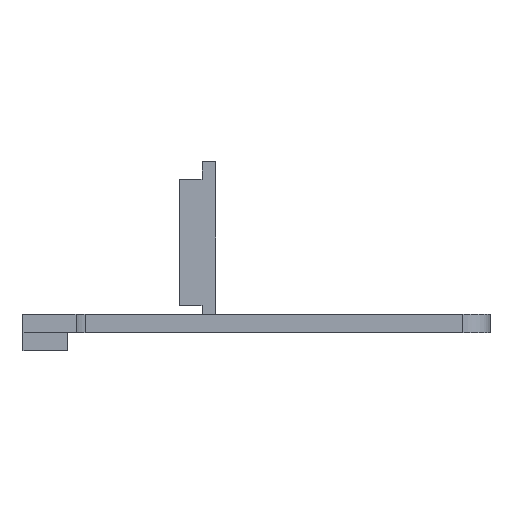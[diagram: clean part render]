
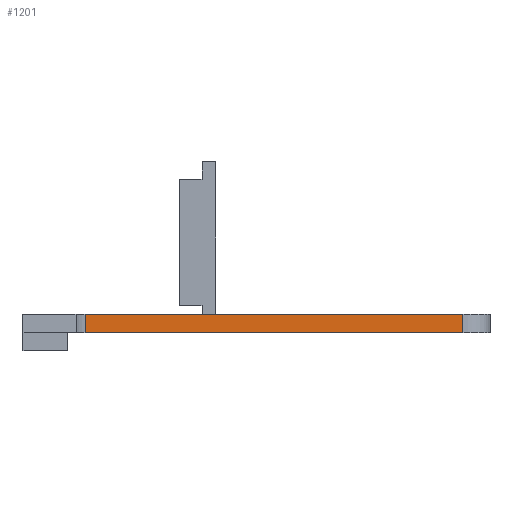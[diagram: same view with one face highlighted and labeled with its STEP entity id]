
A CAD part, left-side view. The second image highlights one B-rep face of the part: STEP entity #1201.
In plain terms, the highlighted planar face has unit normal (-1, 0, 0).
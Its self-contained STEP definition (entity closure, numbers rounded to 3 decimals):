
#44 = PLANE('',#45);
#45 = AXIS2_PLACEMENT_3D('',#46,#47,#48);
#46 = CARTESIAN_POINT('',(28.,-24.,-21.));
#47 = DIRECTION('',(-0.,-0.,1.));
#48 = DIRECTION('',(1.,0.,0.));
#100 = PLANE('',#101);
#101 = AXIS2_PLACEMENT_3D('',#102,#103,#104);
#102 = CARTESIAN_POINT('',(28.,-24.,-23.));
#103 = DIRECTION('',(-0.,-0.,1.));
#104 = DIRECTION('',(1.,0.,0.));
#199 = VERTEX_POINT('',#200);
#200 = CARTESIAN_POINT('',(-28.,-21.,-21.));
#215 = CYLINDRICAL_SURFACE('',#216,3.);
#216 = AXIS2_PLACEMENT_3D('',#217,#218,#219);
#217 = CARTESIAN_POINT('',(-25.,-21.,-23.));
#218 = DIRECTION('',(-0.,-0.,1.));
#219 = DIRECTION('',(-1.,-0.,-0.));
#227 = EDGE_CURVE('',#199,#228,#230,.T.);
#228 = VERTEX_POINT('',#229);
#229 = CARTESIAN_POINT('',(-28.,21.,-21.));
#230 = SURFACE_CURVE('',#231,(#235,#242),.PCURVE_S1.);
#231 = LINE('',#232,#233);
#232 = CARTESIAN_POINT('',(-28.,-24.,-21.));
#233 = VECTOR('',#234,1.);
#234 = DIRECTION('',(-0.,1.,0.));
#235 = PCURVE('',#44,#236);
#236 = DEFINITIONAL_REPRESENTATION('',(#237),#241);
#237 = LINE('',#238,#239);
#238 = CARTESIAN_POINT('',(-56.,0.));
#239 = VECTOR('',#240,1.);
#240 = DIRECTION('',(0.,1.));
#241 = ( GEOMETRIC_REPRESENTATION_CONTEXT(2) 
PARAMETRIC_REPRESENTATION_CONTEXT() REPRESENTATION_CONTEXT('2D SPACE',''
  ) );
#242 = PCURVE('',#243,#248);
#243 = PLANE('',#244);
#244 = AXIS2_PLACEMENT_3D('',#245,#246,#247);
#245 = CARTESIAN_POINT('',(-28.,-24.,-23.));
#246 = DIRECTION('',(-1.,-0.,0.));
#247 = DIRECTION('',(0.,0.,-1.));
#248 = DEFINITIONAL_REPRESENTATION('',(#249),#253);
#249 = LINE('',#250,#251);
#250 = CARTESIAN_POINT('',(-2.,-0.));
#251 = VECTOR('',#252,1.);
#252 = DIRECTION('',(-0.,-1.));
#253 = ( GEOMETRIC_REPRESENTATION_CONTEXT(2) 
PARAMETRIC_REPRESENTATION_CONTEXT() REPRESENTATION_CONTEXT('2D SPACE',''
  ) );
#276 = CYLINDRICAL_SURFACE('',#277,3.);
#277 = AXIS2_PLACEMENT_3D('',#278,#279,#280);
#278 = CARTESIAN_POINT('',(-25.,21.,-23.));
#279 = DIRECTION('',(-0.,-0.,1.));
#280 = DIRECTION('',(-1.,-0.,-0.));
#781 = VERTEX_POINT('',#782);
#782 = CARTESIAN_POINT('',(-28.,-21.,-23.));
#804 = EDGE_CURVE('',#781,#805,#807,.T.);
#805 = VERTEX_POINT('',#806);
#806 = CARTESIAN_POINT('',(-28.,21.,-23.));
#807 = SURFACE_CURVE('',#808,(#812,#819),.PCURVE_S1.);
#808 = LINE('',#809,#810);
#809 = CARTESIAN_POINT('',(-28.,-24.,-23.));
#810 = VECTOR('',#811,1.);
#811 = DIRECTION('',(-0.,1.,0.));
#812 = PCURVE('',#100,#813);
#813 = DEFINITIONAL_REPRESENTATION('',(#814),#818);
#814 = LINE('',#815,#816);
#815 = CARTESIAN_POINT('',(-56.,0.));
#816 = VECTOR('',#817,1.);
#817 = DIRECTION('',(0.,1.));
#818 = ( GEOMETRIC_REPRESENTATION_CONTEXT(2) 
PARAMETRIC_REPRESENTATION_CONTEXT() REPRESENTATION_CONTEXT('2D SPACE',''
  ) );
#819 = PCURVE('',#243,#820);
#820 = DEFINITIONAL_REPRESENTATION('',(#821),#825);
#821 = LINE('',#822,#823);
#822 = CARTESIAN_POINT('',(-0.,-0.));
#823 = VECTOR('',#824,1.);
#824 = DIRECTION('',(-0.,-1.));
#825 = ( GEOMETRIC_REPRESENTATION_CONTEXT(2) 
PARAMETRIC_REPRESENTATION_CONTEXT() REPRESENTATION_CONTEXT('2D SPACE',''
  ) );
#1154 = EDGE_CURVE('',#781,#199,#1155,.T.);
#1155 = SURFACE_CURVE('',#1156,(#1160,#1167),.PCURVE_S1.);
#1156 = LINE('',#1157,#1158);
#1157 = CARTESIAN_POINT('',(-28.,-21.,-23.));
#1158 = VECTOR('',#1159,1.);
#1159 = DIRECTION('',(-0.,-0.,1.));
#1160 = PCURVE('',#215,#1161);
#1161 = DEFINITIONAL_REPRESENTATION('',(#1162),#1166);
#1162 = LINE('',#1163,#1164);
#1163 = CARTESIAN_POINT('',(0.,0.));
#1164 = VECTOR('',#1165,1.);
#1165 = DIRECTION('',(0.,1.));
#1166 = ( GEOMETRIC_REPRESENTATION_CONTEXT(2) 
PARAMETRIC_REPRESENTATION_CONTEXT() REPRESENTATION_CONTEXT('2D SPACE',''
  ) );
#1167 = PCURVE('',#243,#1168);
#1168 = DEFINITIONAL_REPRESENTATION('',(#1169),#1173);
#1169 = LINE('',#1170,#1171);
#1170 = CARTESIAN_POINT('',(-0.,-3.));
#1171 = VECTOR('',#1172,1.);
#1172 = DIRECTION('',(-1.,-0.));
#1173 = ( GEOMETRIC_REPRESENTATION_CONTEXT(2) 
PARAMETRIC_REPRESENTATION_CONTEXT() REPRESENTATION_CONTEXT('2D SPACE',''
  ) );
#1201 = ADVANCED_FACE('',(#1202),#243,.T.);
#1202 = FACE_BOUND('',#1203,.F.);
#1203 = EDGE_LOOP('',(#1204,#1205,#1206,#1207));
#1204 = ORIENTED_EDGE('',*,*,#227,.F.);
#1205 = ORIENTED_EDGE('',*,*,#1154,.F.);
#1206 = ORIENTED_EDGE('',*,*,#804,.T.);
#1207 = ORIENTED_EDGE('',*,*,#1208,.T.);
#1208 = EDGE_CURVE('',#805,#228,#1209,.T.);
#1209 = SURFACE_CURVE('',#1210,(#1214,#1221),.PCURVE_S1.);
#1210 = LINE('',#1211,#1212);
#1211 = CARTESIAN_POINT('',(-28.,21.,-23.));
#1212 = VECTOR('',#1213,1.);
#1213 = DIRECTION('',(-0.,-0.,1.));
#1214 = PCURVE('',#243,#1215);
#1215 = DEFINITIONAL_REPRESENTATION('',(#1216),#1220);
#1216 = LINE('',#1217,#1218);
#1217 = CARTESIAN_POINT('',(-0.,-45.));
#1218 = VECTOR('',#1219,1.);
#1219 = DIRECTION('',(-1.,-0.));
#1220 = ( GEOMETRIC_REPRESENTATION_CONTEXT(2) 
PARAMETRIC_REPRESENTATION_CONTEXT() REPRESENTATION_CONTEXT('2D SPACE',''
  ) );
#1221 = PCURVE('',#276,#1222);
#1222 = DEFINITIONAL_REPRESENTATION('',(#1223),#1227);
#1223 = LINE('',#1224,#1225);
#1224 = CARTESIAN_POINT('',(-0.,0.));
#1225 = VECTOR('',#1226,1.);
#1226 = DIRECTION('',(-0.,1.));
#1227 = ( GEOMETRIC_REPRESENTATION_CONTEXT(2) 
PARAMETRIC_REPRESENTATION_CONTEXT() REPRESENTATION_CONTEXT('2D SPACE',''
  ) );
